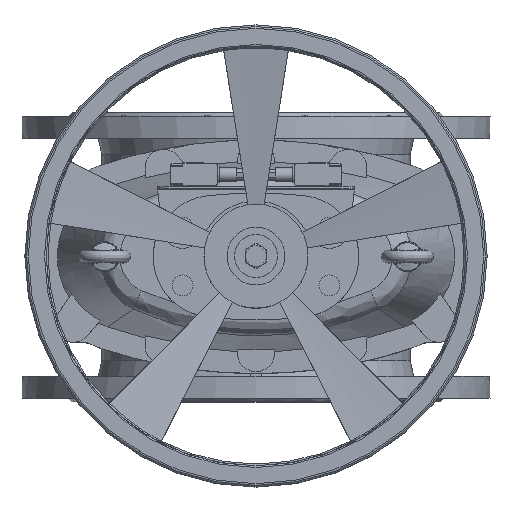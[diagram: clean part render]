
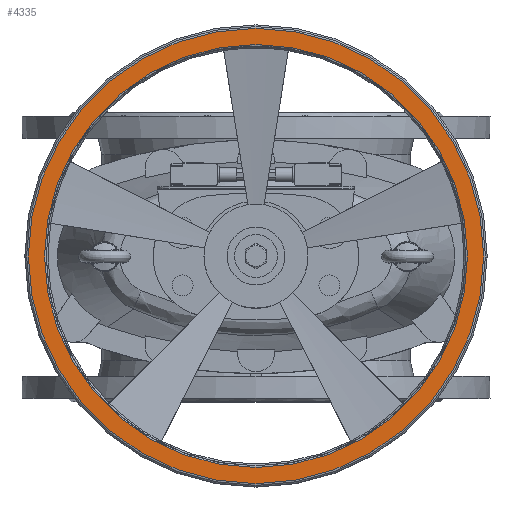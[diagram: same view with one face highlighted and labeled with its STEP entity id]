
A CAD part, top view. The second image highlights one B-rep face of the part: STEP entity #4335.
In plain terms, the highlighted planar face has unit normal (0, 0, 1).
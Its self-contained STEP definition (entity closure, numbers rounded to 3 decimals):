
#4335=ADVANCED_FACE('',(#24631,#24633),#24635,.T.);
#24631=FACE_BOUND('',#24632,.T.);
#24632=EDGE_LOOP('',(#27433));
#24633=FACE_BOUND('',#24634,.T.);
#24634=EDGE_LOOP('',(#27434));
#24635=PLANE('',#24636);
#24636=AXIS2_PLACEMENT_3D('',#24637,#24638,#24639);
#24637=CARTESIAN_POINT('',(0.,0.,735.5));
#24638=DIRECTION('',(0.,0.,1.));
#24639=DIRECTION('',(0.,-1.,0.));
#27433=ORIENTED_EDGE('',*,*,#28830,.T.);
#27434=ORIENTED_EDGE('',*,*,#28822,.F.);
#28822=EDGE_CURVE('',#30997,#30997,#30998,.T.);
#28830=EDGE_CURVE('',#31013,#31013,#31014,.T.);
#30997=VERTEX_POINT('',#42129);
#30998=CIRCLE('',#42130,183.);
#31013=VERTEX_POINT('',#42163);
#31014=CIRCLE('',#42164,197.);
#42129=CARTESIAN_POINT('',(0.,-183.,735.5));
#42130=AXIS2_PLACEMENT_3D('',#42131,#42132,#42133);
#42131=CARTESIAN_POINT('',(0.,0.,735.5));
#42132=DIRECTION('',(0.,0.,1.));
#42133=DIRECTION('',(0.,-1.,0.));
#42163=CARTESIAN_POINT('',(0.,-197.,735.5));
#42164=AXIS2_PLACEMENT_3D('',#42165,#42166,#42167);
#42165=CARTESIAN_POINT('',(0.,0.,735.5));
#42166=DIRECTION('',(0.,0.,1.));
#42167=DIRECTION('',(0.,-1.,0.));
